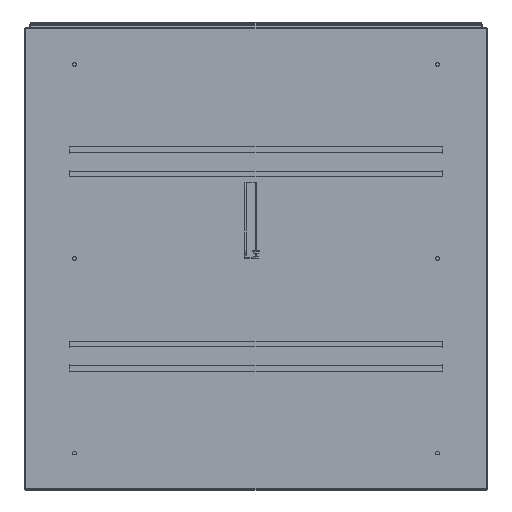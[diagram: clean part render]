
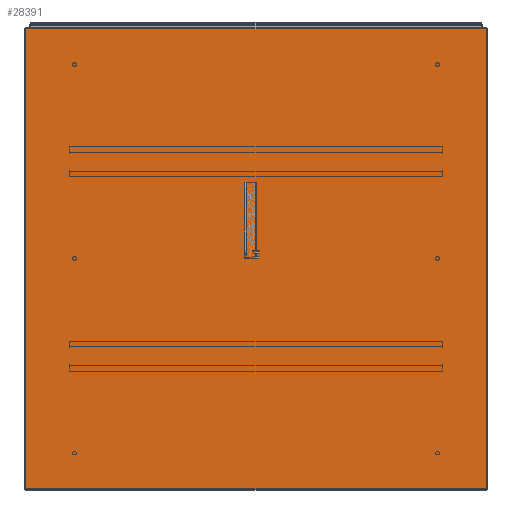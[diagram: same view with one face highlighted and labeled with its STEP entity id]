
A CAD part, left-side view. The second image highlights one B-rep face of the part: STEP entity #28391.
In plain terms, the highlighted planar face has unit normal (-1, 0, 0).
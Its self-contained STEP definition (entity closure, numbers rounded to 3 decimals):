
#6414=ORIENTED_EDGE('',*,*,#12574,.F.);
#6415=ORIENTED_EDGE('',*,*,#12627,.F.);
#6416=ORIENTED_EDGE('',*,*,#12585,.T.);
#6417=ORIENTED_EDGE('',*,*,#12626,.T.);
#12574=EDGE_CURVE('',#16022,#16023,#18798,.T.);
#12585=EDGE_CURVE('',#16034,#16033,#18803,.T.);
#12626=EDGE_CURVE('',#16033,#16023,#18831,.T.);
#12627=EDGE_CURVE('',#16034,#16022,#18832,.T.);
#16022=VERTEX_POINT('',#43776);
#16023=VERTEX_POINT('',#43778);
#16033=VERTEX_POINT('',#43799);
#16034=VERTEX_POINT('',#43801);
#18798=LINE('',#43777,#21459);
#18803=LINE('',#43800,#21464);
#18831=LINE('',#43878,#21492);
#18832=LINE('',#43880,#21493);
#21459=VECTOR('',#35562,1000.);
#21464=VECTOR('',#35581,1000.);
#21492=VECTOR('',#35657,1000.);
#21493=VECTOR('',#35660,1000.);
#23730=EDGE_LOOP('',(#6414,#6415,#6416,#6417));
#25729=FACE_BOUND('',#23730,.T.);
#27212=PLANE('',#30675);
#28391=ADVANCED_FACE('',(#25729),#27212,.T.);
#30675=AXIS2_PLACEMENT_3D('',#43879,#35658,#35659);
#35562=DIRECTION('',(0.,0.,-1.));
#35581=DIRECTION('',(0.,0.,-1.));
#35657=DIRECTION('',(0.,-1.,0.));
#35658=DIRECTION('',(-1.,0.,0.));
#35659=DIRECTION('',(0.,0.,1.));
#35660=DIRECTION('',(0.,-1.,0.));
#43776=CARTESIAN_POINT('',(0.,-455.371,454.457));
#43777=CARTESIAN_POINT('',(0.,-455.371,457.2));
#43778=CARTESIAN_POINT('',(0.,-455.371,-454.457));
#43799=CARTESIAN_POINT('',(0.,455.371,-454.457));
#43800=CARTESIAN_POINT('',(0.,455.371,457.2));
#43801=CARTESIAN_POINT('',(0.,455.371,454.457));
#43878=CARTESIAN_POINT('',(0.,455.371,-454.457));
#43879=CARTESIAN_POINT('',(0.,455.371,457.2));
#43880=CARTESIAN_POINT('',(0.,455.371,454.457));
